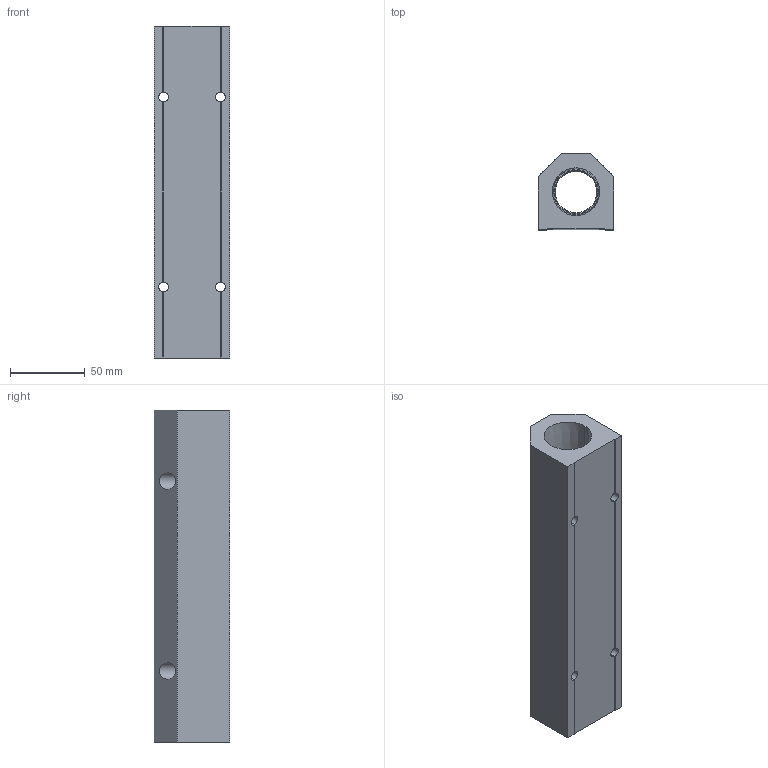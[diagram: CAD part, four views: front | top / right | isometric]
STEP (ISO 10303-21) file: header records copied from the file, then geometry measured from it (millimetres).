
FILE_DESCRIPTION (( 'STEP AP214' ), '1' );
FILE_NAME ('ALM6C-N4N16-222R.STEP', '2023-11-02T06:51:08', ( '' ), ( '' ), 'SwSTEP 2.0', 'SolidWorks 2020', '' );
FILE_SCHEMA (( 'AUTOMOTIVE_DESIGN' ));
Length unit declared in the file: millimetre
Products named in the file (1): ALM6C-N4N16-222R
Bounding box: 50.8 x 50.8 x 222 mm (x, y, z)
Volume: 355910.1 mm3; surface area: 69228.8 mm2
Topology: 1 solids, 1 shells, 288 faces, 755 edges, 498 vertices
Faces by surface type: plane 193, bspline 53, cylinder 22, cone 20
Entity records: 15367 total; most frequent: CARTESIAN_POINT 5993, ORIENTED_EDGE 1510, DIRECTION 1149, EDGE_CURVE 755, LINE 565, VECTOR 565, VERTEX_POINT 498, EDGE_LOOP 339
